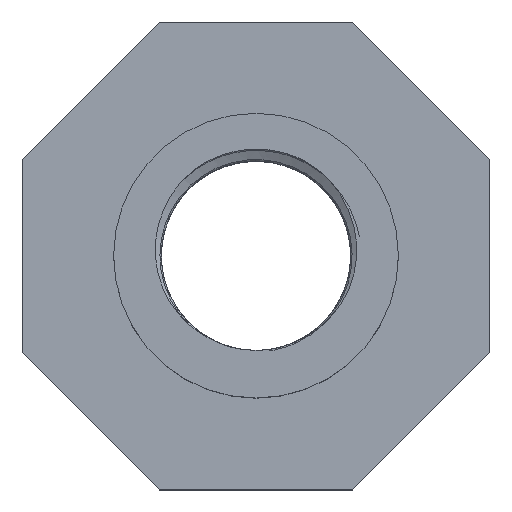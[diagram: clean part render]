
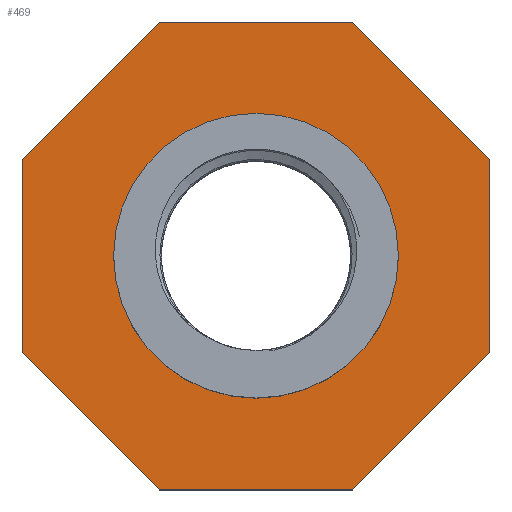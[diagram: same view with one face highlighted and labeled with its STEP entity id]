
A CAD part, top view. The second image highlights one B-rep face of the part: STEP entity #469.
In plain terms, the highlighted planar face has unit normal (0, 0, 1).
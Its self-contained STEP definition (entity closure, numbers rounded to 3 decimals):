
#16=FACE_BOUND('',#107,.T.);
#38=PLANE('',#497);
#49=CIRCLE('',#498,14.);
#76=FACE_OUTER_BOUND('',#106,.T.);
#106=EDGE_LOOP('',(#411,#412,#413,#414,#415,#416,#417,#418));
#107=EDGE_LOOP('',(#419));
#126=LINE('',#8001,#156);
#130=LINE('',#8009,#160);
#133=LINE('',#8015,#163);
#136=LINE('',#8021,#166);
#139=LINE('',#8027,#169);
#142=LINE('',#8033,#172);
#145=LINE('',#8039,#175);
#148=LINE('',#8044,#178);
#156=VECTOR('',#539,19.054);
#160=VECTOR('',#545,19.054);
#163=VECTOR('',#550,19.054);
#166=VECTOR('',#555,19.054);
#169=VECTOR('',#560,19.054);
#172=VECTOR('',#565,19.054);
#175=VECTOR('',#570,19.054);
#178=VECTOR('',#575,19.054);
#224=VERTEX_POINT('',#7999);
#225=VERTEX_POINT('',#8000);
#228=VERTEX_POINT('',#8008);
#230=VERTEX_POINT('',#8014);
#232=VERTEX_POINT('',#8020);
#234=VERTEX_POINT('',#8026);
#236=VERTEX_POINT('',#8032);
#238=VERTEX_POINT('',#8038);
#240=VERTEX_POINT('',#8048);
#280=EDGE_CURVE('',#224,#225,#126,.T.);
#284=EDGE_CURVE('',#228,#224,#130,.T.);
#287=EDGE_CURVE('',#230,#228,#133,.T.);
#290=EDGE_CURVE('',#232,#230,#136,.T.);
#293=EDGE_CURVE('',#234,#232,#139,.T.);
#296=EDGE_CURVE('',#236,#234,#142,.T.);
#299=EDGE_CURVE('',#238,#236,#145,.T.);
#302=EDGE_CURVE('',#225,#238,#148,.T.);
#304=EDGE_CURVE('',#240,#240,#49,.T.);
#411=ORIENTED_EDGE('',*,*,#302,.F.);
#412=ORIENTED_EDGE('',*,*,#280,.F.);
#413=ORIENTED_EDGE('',*,*,#284,.F.);
#414=ORIENTED_EDGE('',*,*,#287,.F.);
#415=ORIENTED_EDGE('',*,*,#290,.F.);
#416=ORIENTED_EDGE('',*,*,#293,.F.);
#417=ORIENTED_EDGE('',*,*,#296,.F.);
#418=ORIENTED_EDGE('',*,*,#299,.F.);
#419=ORIENTED_EDGE('',*,*,#304,.F.);
#469=ADVANCED_FACE('',(#76,#16),#38,.T.);
#497=AXIS2_PLACEMENT_3D('',#8047,#579,#580);
#498=AXIS2_PLACEMENT_3D('',#8049,#581,#582);
#539=DIRECTION('',(1.,0.,0.));
#545=DIRECTION('',(0.707,0.707,0.));
#550=DIRECTION('',(0.,1.,0.));
#555=DIRECTION('',(-0.707,0.707,0.));
#560=DIRECTION('',(-1.,0.,0.));
#565=DIRECTION('',(-0.707,-0.707,0.));
#570=DIRECTION('',(0.,-1.,0.));
#575=DIRECTION('',(0.707,-0.707,0.));
#579=DIRECTION('center_axis',(0.,0.,1.));
#580=DIRECTION('ref_axis',(1.,0.,0.));
#581=DIRECTION('center_axis',(0.,0.,1.));
#582=DIRECTION('ref_axis',(1.,0.,0.));
#7999=CARTESIAN_POINT('',(-9.527,23.,33.));
#8000=CARTESIAN_POINT('',(9.527,23.,33.));
#8001=CARTESIAN_POINT('',(-9.527,23.,33.));
#8008=CARTESIAN_POINT('',(-23.,9.527,33.));
#8009=CARTESIAN_POINT('',(-23.,9.527,33.));
#8014=CARTESIAN_POINT('',(-23.,-9.527,33.));
#8015=CARTESIAN_POINT('',(-23.,-9.527,33.));
#8020=CARTESIAN_POINT('',(-9.527,-23.,33.));
#8021=CARTESIAN_POINT('',(-9.527,-23.,33.));
#8026=CARTESIAN_POINT('',(9.527,-23.,33.));
#8027=CARTESIAN_POINT('',(9.527,-23.,33.));
#8032=CARTESIAN_POINT('',(23.,-9.527,33.));
#8033=CARTESIAN_POINT('',(23.,-9.527,33.));
#8038=CARTESIAN_POINT('',(23.,9.527,33.));
#8039=CARTESIAN_POINT('',(23.,9.527,33.));
#8044=CARTESIAN_POINT('',(9.527,23.,33.));
#8047=CARTESIAN_POINT('Origin',(14.,0.,33.));
#8048=CARTESIAN_POINT('',(14.,0.,33.));
#8049=CARTESIAN_POINT('Origin',(0.,0.,33.));
